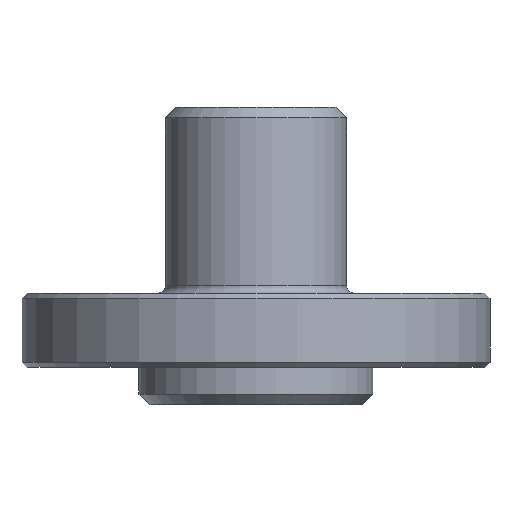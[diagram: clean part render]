
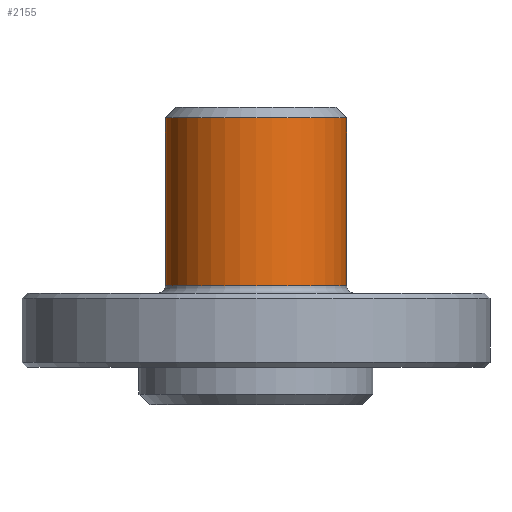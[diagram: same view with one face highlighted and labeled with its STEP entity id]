
A CAD part, front view. The second image highlights one B-rep face of the part: STEP entity #2155.
In plain terms, the highlighted cylindrical face has radius 12.2 mm (diameter 24.4 mm), a partial arc.
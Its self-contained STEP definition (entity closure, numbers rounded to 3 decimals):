
#57 = CARTESIAN_POINT ( 'NONE',  ( 0., 0., 40. ) ) ;
#342 = VERTEX_POINT ( 'NONE', #626 ) ;
#415 = EDGE_CURVE ( 'NONE', #2359, #342, #1634, .T. ) ;
#517 = CIRCLE ( 'NONE', #3862, 12.2 ) ;
#573 = CYLINDRICAL_SURFACE ( 'NONE', #2665, 12.2 ) ;
#626 = CARTESIAN_POINT ( 'NONE',  ( 12.2, 0., 16. ) ) ;
#666 = AXIS2_PLACEMENT_3D ( 'NONE', #1000, #987, #982 ) ;
#982 = DIRECTION ( 'NONE',  ( 1., 0., 0. ) ) ;
#987 = DIRECTION ( 'NONE',  ( 0., 0., 1. ) ) ;
#998 = VERTEX_POINT ( 'NONE', #1195 ) ;
#1000 = CARTESIAN_POINT ( 'NONE',  ( 0., 0., 38.586 ) ) ;
#1195 = CARTESIAN_POINT ( 'NONE',  ( -12.2, 0., 16. ) ) ;
#1323 = CARTESIAN_POINT ( 'NONE',  ( -12.2, 0., 38.586 ) ) ;
#1399 = CARTESIAN_POINT ( 'NONE',  ( -12.2, 0., 38.586 ) ) ;
#1430 = ORIENTED_EDGE ( 'NONE', *, *, #2659, .T. ) ;
#1634 = LINE ( 'NONE', #3157, #3449 ) ;
#1657 = ORIENTED_EDGE ( 'NONE', *, *, #415, .F. ) ;
#1839 = DIRECTION ( 'NONE',  ( 0., 0., -1. ) ) ;
#2061 = EDGE_CURVE ( 'NONE', #3344, #998, #3262, .T. ) ;
#2155 = ADVANCED_FACE ( 'NONE', ( #3154 ), #573, .T. ) ;
#2359 = VERTEX_POINT ( 'NONE', #3674 ) ;
#2418 = VECTOR ( 'NONE', #1839, 1000. ) ;
#2510 = DIRECTION ( 'NONE',  ( 0., 0., -1. ) ) ;
#2659 = EDGE_CURVE ( 'NONE', #998, #342, #517, .T. ) ;
#2665 = AXIS2_PLACEMENT_3D ( 'NONE', #57, #3940, #3835 ) ;
#2823 = DIRECTION ( 'NONE',  ( 1., 0., 0. ) ) ;
#2832 = DIRECTION ( 'NONE',  ( 0., 0., 1. ) ) ;
#2838 = CARTESIAN_POINT ( 'NONE',  ( 0., 0., 16. ) ) ;
#3029 = ORIENTED_EDGE ( 'NONE', *, *, #3433, .F. ) ;
#3154 = FACE_OUTER_BOUND ( 'NONE', #3703, .T. ) ;
#3157 = CARTESIAN_POINT ( 'NONE',  ( 12.2, 0., 38.586 ) ) ;
#3262 = LINE ( 'NONE', #1323, #2418 ) ;
#3344 = VERTEX_POINT ( 'NONE', #1399 ) ;
#3433 = EDGE_CURVE ( 'NONE', #3344, #2359, #3951, .T. ) ;
#3449 = VECTOR ( 'NONE', #2510, 1000. ) ;
#3674 = CARTESIAN_POINT ( 'NONE',  ( 12.2, 0., 38.586 ) ) ;
#3703 = EDGE_LOOP ( 'NONE', ( #1430, #1657, #3029, #3822 ) ) ;
#3822 = ORIENTED_EDGE ( 'NONE', *, *, #2061, .T. ) ;
#3835 = DIRECTION ( 'NONE',  ( 0., 1., 0. ) ) ;
#3862 = AXIS2_PLACEMENT_3D ( 'NONE', #2838, #2832, #2823 ) ;
#3940 = DIRECTION ( 'NONE',  ( 0., 0., -1. ) ) ;
#3951 = CIRCLE ( 'NONE', #666, 12.2 ) ;
